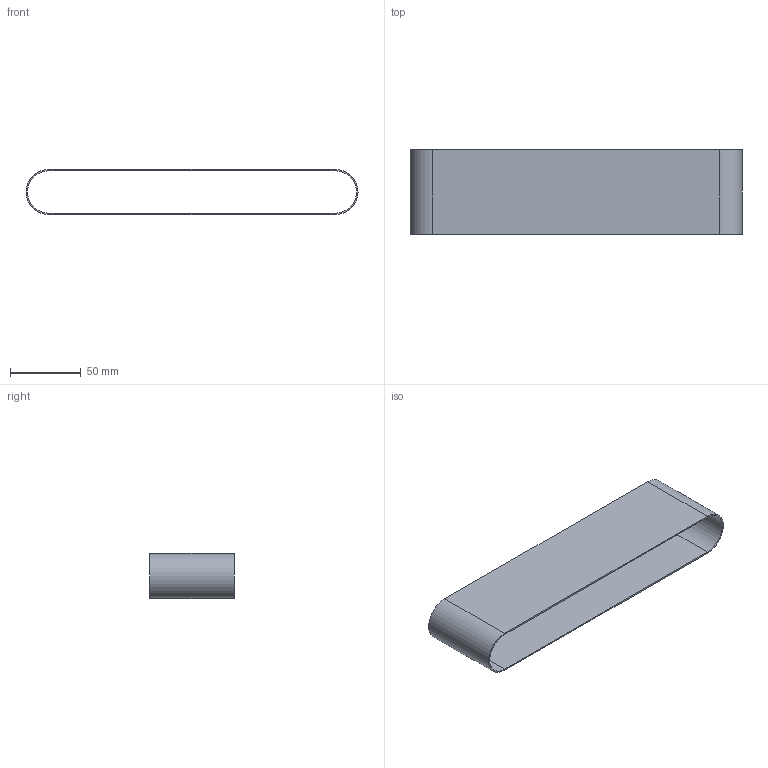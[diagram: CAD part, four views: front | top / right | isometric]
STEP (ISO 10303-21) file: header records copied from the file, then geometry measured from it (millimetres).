
FILE_DESCRIPTION(('Open CASCADE Model'),'2;1');
FILE_NAME('Open CASCADE Shape Model','2026-10-04T02:31:35',('Author'),( 'Open CASCADE'),'Open CASCADE STEP processor 8.0','Open CASCADE 8.0' ,'Unknown');
FILE_SCHEMA(('AUTOMOTIVE_DESIGN { 1 0 10303 214 1 1 1 1 }'));
Length unit declared in the file: millimetre
Products named in the file (1): Open CASCADE STEP translator 8.0 40
Bounding box: 235 x 60 x 32 mm (x, y, z)
Volume: 30203.4 mm3; surface area: 61413.5 mm2
Topology: 1 solids, 1 shells, 24 faces, 48 edges, 24 vertices
Faces by surface type: plane 20, cylinder 4
Entity records: 1206 total; most frequent: CARTESIAN_POINT 221, DIRECTION 182, ORIENTED_EDGE 96, PCURVE 96, DEFINITIONAL_REPRESENTATION 96, LINE 76, VECTOR 76, EDGE_CURVE 48
